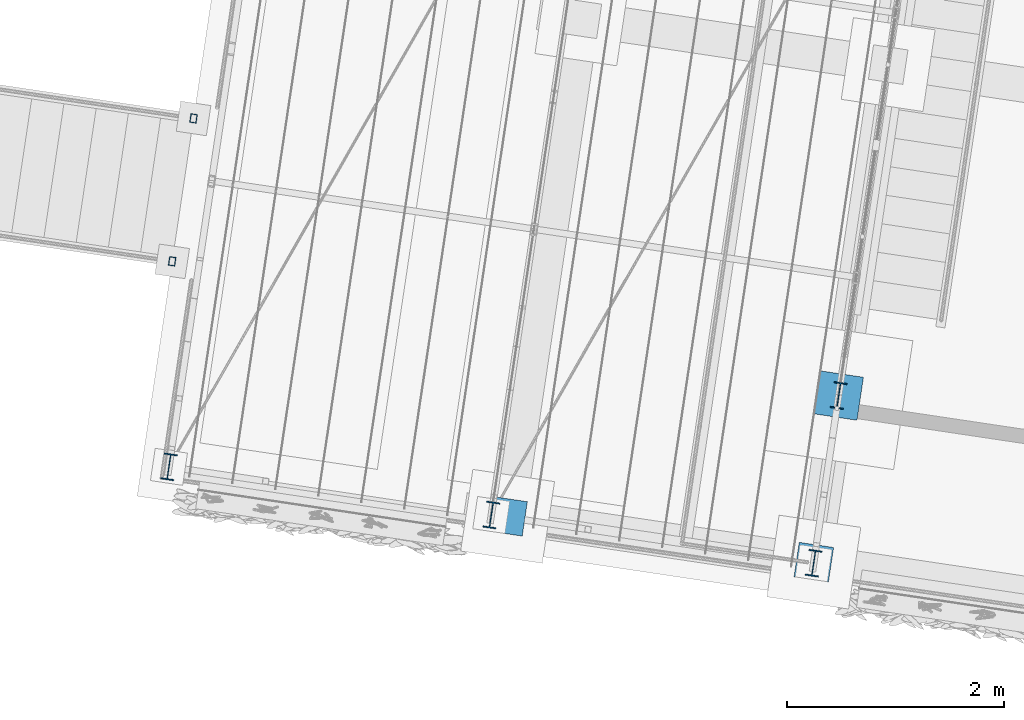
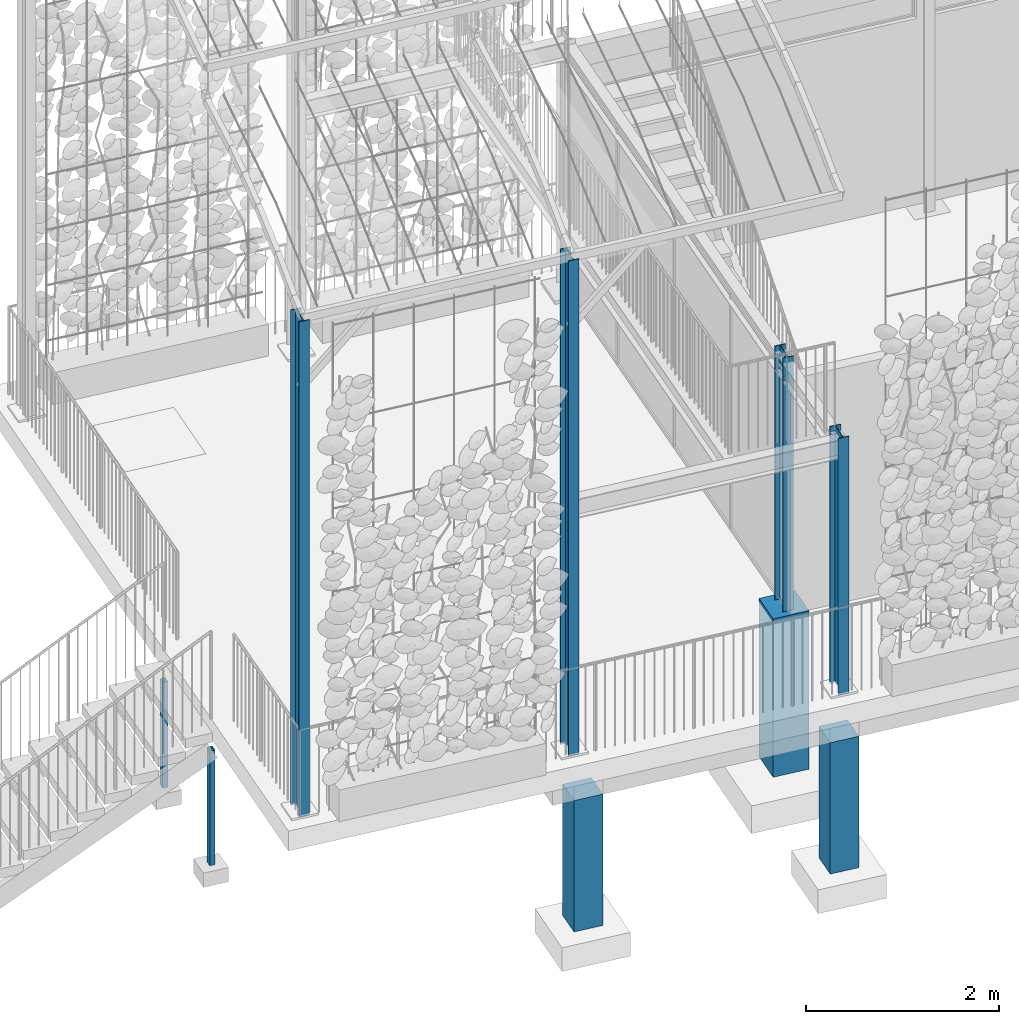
# One storey, part 2 of 142: 9 columns, 3 elements without a shape of their own.
"""IFC4 building model written with IfcOpenShell, lengths in metres."""

from ifc_helpers import new_model, si_unit, direction, frame, origin_with_axes, place, context, subcontext, project, spatial, polyline, hollow_rectangle, i_section, outline, extrude, material, material_profile, profile_set, profile_usage, type_object, element, aggregate, save


model = new_model("IFC4")

# Units and contexts
model_context = context("Model", 3, precision=1e-05, world=origin_with_axes(), true_north=direction((0.0, 1.0)))
body_context = subcontext(model_context, "Body", "Model", "MODEL_VIEW")
ifc_project = project(units=[si_unit("AREAUNIT", "SQUARE_METRE"), si_unit("VOLUMEUNIT", "CUBIC_METRE"), si_unit("LENGTHUNIT", "METRE")], contexts=[model_context])

# Site, building, storey
site_placement = place(None, origin_with_axes())
site = spatial("IfcSite", under=ifc_project, at=site_placement, Name="Lares · Rua das Mercês · artigo 4771")
building_placement = place(site_placement, frame((15.0, 9.7, 14.65), z_axis=(0.0, 0.0, 1.0), x_axis=(0.989015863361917, -0.147809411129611, 0.0)))
building = spatial("IfcBuilding", under=site, at=building_placement, Name="Casa Sobreposta")
storey_placement = place(building_placement, origin_with_axes())
storey = spatial("IfcBuildingStorey", under=building, at=storey_placement, Name="00 · Habitação e estacionamento", Elevation=14.65)

# Column
ifc_material_1 = material(Name="Aço pintado / Stahl lackiert", Category="steel")
ifc_material_profile_1 = material_profile(ifc_material_1, i_section(OverallWidth=0.12, OverallDepth=0.24, WebThickness=0.0062, FlangeThickness=0.0098))
ifc_profile_set_1 = profile_set([ifc_material_profile_1], Name="IPE240")
ifc_profile_usage_1 = profile_usage(ifc_profile_set_1)
column_type_1 = type_object("IfcColumnType", Name="IPE240 / steel", PredefinedType="NOTDEFINED", material=ifc_profile_set_1)
column_1_placement = place(storey_placement, frame((0.0, 0.12, 0.0), z_axis=(0.0, 0.0, 1.0), x_axis=(1.0, 0.0, 0.0)))
element("IfcColumn", 1, at=column_1_placement, inside=storey, type_object=column_type_1, material=ifc_profile_usage_1, Name="Pilar 1A · IPE240", context=body_context, shape_type="SweptSolid", body=[
    extrude(i_section(OverallWidth=0.12, OverallDepth=0.24, WebThickness=0.0062, FlangeThickness=0.0098), origin_with_axes(), (0.0, 0.0, 1.0), 3.208),
])

# Assembly, columns
assembly_1_placement = place(storey_placement, origin_with_axes())
assembly_1 = element("IfcElementAssembly", 2, at=assembly_1_placement, inside=storey, Name="Pérgola · prolongamento da estufa 6 m", ObjectType="PERGOLA_GREENHOUSE_EXTENSION", PredefinedType="USERDEFINED")
ifc_profile_usage_2 = profile_usage(ifc_profile_set_1)
column_2_placement = place(assembly_1_placement, frame((-6.0, -1.44, -0.04), z_axis=(0.0, 0.0, 1.0), x_axis=(1.0, 0.0, 0.0)))
column_2 = element("IfcColumn", 3, at=column_2_placement, type_object=column_type_1, material=ifc_profile_usage_2, Name="Pérgola · pilar de duplo pé-direito", context=body_context, shape_type="SweptSolid", body=[
    extrude(i_section(OverallWidth=0.12, OverallDepth=0.24, WebThickness=0.0062, FlangeThickness=0.0098), origin_with_axes(), (0.0, 0.0, 1.0), 6.26),
])
ifc_profile_usage_3 = profile_usage(ifc_profile_set_1)
column_3_placement = place(assembly_1_placement, frame((-3.0, -1.44, -0.04), z_axis=(0.0, 0.0, 1.0), x_axis=(1.0, 0.0, 0.0)))
column_3 = element("IfcColumn", 4, at=column_3_placement, type_object=column_type_1, material=ifc_profile_usage_3, Name="Pérgola · pilar de duplo pé-direito", context=body_context, shape_type="SweptSolid", body=[
    extrude(i_section(OverallWidth=0.12, OverallDepth=0.24, WebThickness=0.0062, FlangeThickness=0.0098), origin_with_axes(), (0.0, 0.0, 1.0), 6.26),
])
aggregate(assembly_1, [column_2, column_3])

# Column
ifc_profile_usage_4 = profile_usage(ifc_profile_set_1)
column_4_placement = place(storey_placement, frame((0.0, -1.44, -0.04), z_axis=(0.0, 0.0, 1.0), x_axis=(1.0, 0.0, 0.0)))
element("IfcColumn", 5, at=column_4_placement, inside=storey, type_object=column_type_1, material=ifc_profile_usage_4, Name="Projeção estufa · pilar sul ao pódio", context=body_context, shape_type="SweptSolid", body=[
    extrude(i_section(OverallWidth=0.12, OverallDepth=0.24, WebThickness=0.0062, FlangeThickness=0.0098), origin_with_axes(), (0.0, 0.0, 1.0), 3.248),
])

# Stair, columns
stair_placement = place(storey_placement, origin_with_axes())
stair = element("IfcStair", 6, at=stair_placement, inside=storey, Name="Jardim · escada pela fachada poente", PredefinedType="STRAIGHT_RUN_STAIR")
ifc_material_profile_2 = material_profile(ifc_material_1, hollow_rectangle(XDim=0.06, YDim=0.08, WallThickness=0.004))
ifc_profile_set_2 = profile_set([ifc_material_profile_2], Name="RHS80x60x4")
ifc_profile_usage_5 = profile_usage(ifc_profile_set_2)
column_type_2 = type_object("IfcColumnType", Name="RHS80x60x4 / steel", PredefinedType="NOTDEFINED", material=ifc_profile_set_2)
column_5_placement = place(stair_placement, frame((-6.25, 0.435, -1.86767746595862), z_axis=(0.0, 0.0, 1.0), x_axis=(1.0, 0.0, 0.0)))
column_5 = element("IfcColumn", 7, at=column_5_placement, type_object=column_type_2, material=ifc_profile_usage_5, Name="Jardim · montante", context=body_context, shape_type="SweptSolid", body=[
    extrude(hollow_rectangle(XDim=0.06, YDim=0.08, WallThickness=0.004), origin_with_axes(), (0.0, 0.0, 1.0), 1.44851079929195),
])
ifc_profile_usage_6 = profile_usage(ifc_profile_set_2)
column_6_placement = place(stair_placement, frame((-6.25, 1.765, -1.75553574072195), z_axis=(0.0, 0.0, 1.0), x_axis=(1.0, 0.0, 0.0)))
column_6 = element("IfcColumn", 8, at=column_6_placement, type_object=column_type_2, material=ifc_profile_usage_6, Name="Jardim · montante", context=body_context, shape_type="SweptSolid", body=[
    extrude(hollow_rectangle(XDim=0.06, YDim=0.08, WallThickness=0.004), origin_with_axes(), (0.0, 0.0, 1.0), 1.33636907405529),
])
aggregate(stair, [column_5, column_6])

# Column
ifc_material_2 = material(Name="Betão armado / Stahlbeton", Category="concrete")
column_7_placement = place(storey_placement, frame((0.0, 0.0, -2.0), z_axis=(0.0, 0.0, 1.0), x_axis=(1.0, 0.0, 0.0)))
element("IfcColumn", 9, at=column_7_placement, inside=storey, material=ifc_material_2, Name="Pedestal 1A · betão 400 x 400", context=body_context, shape_type="SweptSolid", body=[
    extrude(outline(polyline([(0.2, -0.08), (0.2, 0.32), (-0.2, 0.32), (-0.2, -0.08), (0.2, -0.08)])), origin_with_axes(), (0.0, 0.0, 1.0), 2.0),
])

# Assembly, columns
assembly_2_placement = place(storey_placement, origin_with_axes())
assembly_2 = element("IfcElementAssembly", 10, at=assembly_2_placement, inside=storey, Name="Pódio · terraço, casa térrea e cisterna", ObjectType="CISTERN_PODIUM", PredefinedType="USERDEFINED")
column_8_placement = place(assembly_2_placement, frame((0.0, 0.0, -2.25), z_axis=(0.0, 0.0, 1.0), x_axis=(1.0, 0.0, 0.0)))
column_8 = element("IfcColumn", 11, at=column_8_placement, material=ifc_material_2, Name="Pódio suspenso · apoio sobre o terreno", context=body_context, shape_type="SweptSolid", body=[
    extrude(outline(polyline([(-2.69, -1.59), (-2.69, -1.27), (-3.01, -1.27), (-3.01, -1.59), (-2.69, -1.59)])), origin_with_axes(), (0.0, 0.0, 1.0), 1.66),
])
column_9_placement = place(assembly_2_placement, frame((0.0, 0.0, -2.25), z_axis=(0.0, 0.0, 1.0), x_axis=(1.0, 0.0, 0.0)))
column_9 = element("IfcColumn", 12, at=column_9_placement, material=ifc_material_2, Name="Pódio suspenso · apoio sobre o terreno", context=body_context, shape_type="SweptSolid", body=[
    extrude(outline(polyline([(0.16, -1.59), (0.16, -1.27), (-0.16, -1.27), (-0.16, -1.59), (0.16, -1.59)])), origin_with_axes(), (0.0, 0.0, 1.0), 1.66),
])
aggregate(assembly_2, [column_8, column_9])

save(model, "model.ifc")
